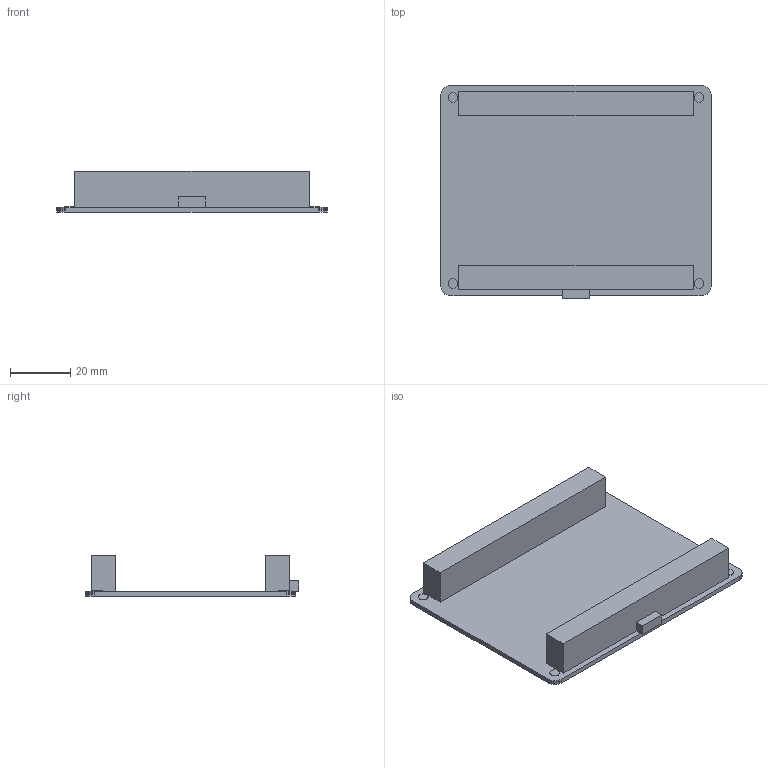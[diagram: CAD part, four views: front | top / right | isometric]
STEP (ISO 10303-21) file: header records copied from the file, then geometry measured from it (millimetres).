
FILE_DESCRIPTION(('Open CASCADE Model'),'2;1');
FILE_NAME('Open CASCADE Shape Model','2026-08-07T13:51:20',('Author'),( 'Open CASCADE'),'Open CASCADE STEP processor 7.9','Open CASCADE 7.9' ,'Unknown');
FILE_SCHEMA(('AUTOMOTIVE_DESIGN { 1 0 10303 214 1 1 1 1 }'));
Length unit declared in the file: millimetre
Products named in the file (1): MATRIX_Mini_R4(外購)
Bounding box: 90 x 71 x 13.8 mm (x, y, z)
Volume: 25150.6 mm3; surface area: 17270.9 mm2
Topology: 1 solids, 1 shells, 253 faces, 724 edges, 482 vertices
Faces by surface type: plane 253
Entity records: 17504 total; most frequent: CARTESIAN_POINT 2908, DIRECTION 2680, LINE 2172, VECTOR 2172, ORIENTED_EDGE 1448, PCURVE 1448, DEFINITIONAL_REPRESENTATION 1448, EDGE_CURVE 724
